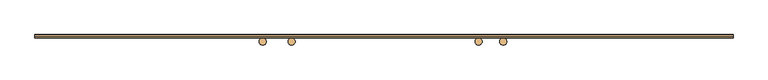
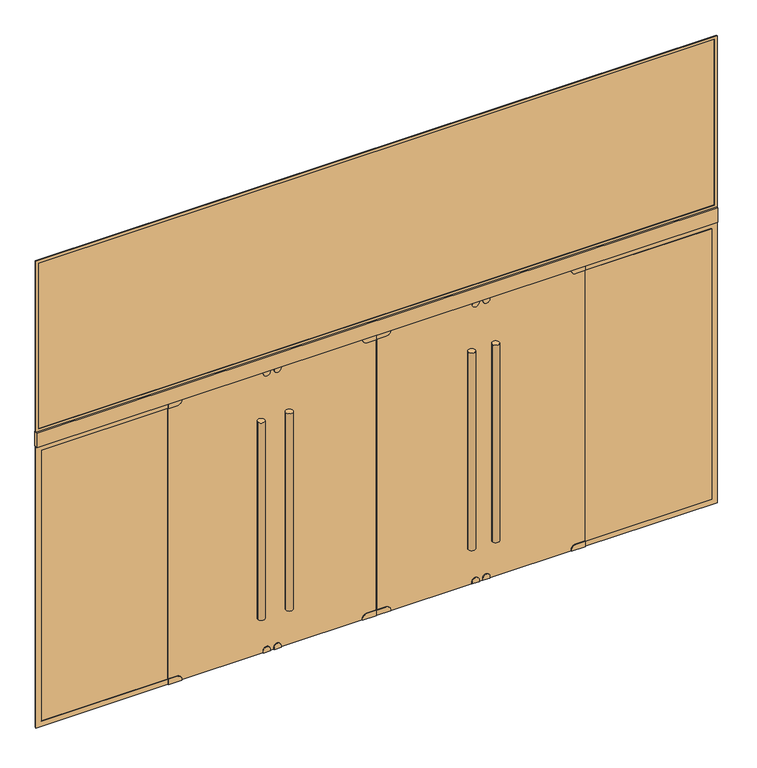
"""IFC4 building model written with IfcOpenShell, lengths in millimetres: door geometry, ARQ-MAM-EX-490x350-Vid : ARQ-MAM-EX-490x350-Vid."""

import ifcopenshell
import ifcopenshell.guid

model = None  # the IFC model being written
_history = None  # IfcOwnerHistory: only IFC2X3 demands one
_inside = {}  # id of a spatial element -> (the spatial element, [elements in it])
_under = {}  # id of a project, library or spatial element -> (it, [spatial elements below it])
_declared = {}  # id of a project -> (the project, [libraries it declares])
_typed = {}  # id of a type object -> (the type object, [elements of that type])
_made_of = {}  # id of a material, layer set ... -> (it, [elements and type objects made of it])


def new_model(schema):
    """Start an empty IFC model of exactly this schema.

    Asked for "IFC4X3", IfcOpenShell would pick the latest addendum, in which some entities
    have other attributes; the version numbers below select the first issue.
    IFC2X3 requires an IfcOwnerHistory on every rooted entity: one is made here for all.
    """
    global model, _history
    if schema == "IFC4X3":
        model = ifcopenshell.file(schema_version=(4, 3, 0, 0))
    else:
        model = ifcopenshell.file(schema=schema)
    _inside.clear()
    _under.clear()
    _declared.clear()
    _typed.clear()
    _made_of.clear()
    _history = None
    if model.schema == "IFC2X3":
        org = make("IfcOrganization", Name="unknown")
        user = make(
            "IfcPersonAndOrganization",
            ThePerson=make("IfcPerson", FamilyName="unknown"),
            TheOrganization=org,
        )
        app = make(
            "IfcApplication",
            ApplicationDeveloper=org,
            Version="unknown",
            ApplicationFullName="unknown",
            ApplicationIdentifier="unknown",
        )
        _history = make(
            "IfcOwnerHistory",
            OwningUser=user,
            OwningApplication=app,
            ChangeAction="ADDED",
            CreationDate=0,
        )
    return model


def make(cls, **values):
    """One entity of the class cls with the attributes given. An attribute that is None is left unset."""
    return model.create_entity(
        cls, **{name: value for name, value in values.items() if value is not None}
    )


def rooted(cls, **values):
    """An entity with a GlobalId (a new one), such as an element, a storey or a relation."""
    return make(cls, GlobalId=ifcopenshell.guid.new(), OwnerHistory=_history, **values)


def si_unit(unit_type, name, prefix=None):
    """IfcSIUnit, for example si_unit("LENGTHUNIT", "METRE", prefix="MILLI")."""
    return make("IfcSIUnit", UnitType=unit_type, Prefix=prefix, Name=name)


def assignment(units):
    """IfcUnitAssignment: the units of a project."""
    return None if units is None else make("IfcUnitAssignment", Units=units)


def point(xyz):
    """IfcCartesianPoint."""
    return None if xyz is None else make("IfcCartesianPoint", Coordinates=xyz)


def direction(xyz):
    """IfcDirection."""
    return None if xyz is None else make("IfcDirection", DirectionRatios=xyz)


def frame(location, z_axis=None, x_axis=None):
    """IfcAxis2Placement3D, a coordinate frame: its origin and axes. An axis left out is left unset."""
    return make(
        "IfcAxis2Placement3D",
        Location=point(location),
        Axis=direction(z_axis),
        RefDirection=direction(x_axis),
    )


def frame_2d(location, x_axis=None):
    """IfcAxis2Placement2D, a coordinate frame in the plane: its origin and x axis."""
    return make(
        "IfcAxis2Placement2D", Location=point(location), RefDirection=direction(x_axis)
    )


def origin():
    """The frame at (0, 0, 0) with its axes left unset."""
    return frame((0.0, 0.0, 0.0))


def origin_with_axes():
    """The frame at (0, 0, 0) with the z axis (0, 0, 1) and the x axis (1, 0, 0) written out."""
    return frame((0.0, 0.0, 0.0), z_axis=(0.0, 0.0, 1.0), x_axis=(1.0, 0.0, 0.0))


def place(relative_to, where):
    """IfcLocalPlacement: puts the frame where relative to a parent placement (None: the world)."""
    return make(
        "IfcLocalPlacement", PlacementRelTo=relative_to, RelativePlacement=where
    )


def context(
    kind, dimensions, precision=None, world=None, true_north=None, identifier=None
):
    """IfcGeometricRepresentationContext, for example the 3D "Model" context."""
    return make(
        "IfcGeometricRepresentationContext",
        ContextIdentifier=identifier,
        ContextType=kind,
        CoordinateSpaceDimension=dimensions,
        Precision=precision,
        WorldCoordinateSystem=world,
        TrueNorth=true_north,
    )


def project(units=None, contexts=None):
    """IfcProject with its units and contexts."""
    return rooted(
        "IfcProject",
        Name="project",
        RepresentationContexts=contexts,
        UnitsInContext=assignment(units),
    )


def spatial(cls, under=None, at=None, **own):
    """A site, building, storey or space (cls), placed at a placement, below another one or the project."""
    s = rooted(cls, ObjectPlacement=at, **own)
    if under is not None:
        _under.setdefault(under.id(), (under, []))[1].append(s)
    return s


def polyline(points):
    """IfcPolyline through the points."""
    return make("IfcPolyline", Points=[point(p) for p in points])


def circle_curve(where, radius):
    """IfcCircle in the frame where."""
    return make("IfcCircle", Position=where, Radius=radius)


def trimmed(basis, trim1, trim2, sense, master):
    """IfcTrimmedCurve: the piece of a basis curve between two trims."""
    return make(
        "IfcTrimmedCurve",
        BasisCurve=basis,
        Trim1=trim1,
        Trim2=trim2,
        SenseAgreement=sense,
        MasterRepresentation=master,
    )


def segment(curve, same_sense, transition):
    """IfcCompositeCurveSegment."""
    return make(
        "IfcCompositeCurveSegment",
        Transition=transition,
        SameSense=same_sense,
        ParentCurve=curve,
    )


def composite_curve(segments, self_intersect=None):
    """IfcCompositeCurve: segments joined end to end."""
    return make("IfcCompositeCurve", Segments=segments, SelfIntersect=self_intersect)


def outline(outer, holes=None, kind="AREA"):
    """IfcArbitraryClosedProfileDef: a profile drawn as a closed curve; with holes, ...WithVoids."""
    if holes is None:
        return make("IfcArbitraryClosedProfileDef", ProfileType=kind, OuterCurve=outer)
    return make(
        "IfcArbitraryProfileDefWithVoids",
        ProfileType=kind,
        OuterCurve=outer,
        InnerCurves=holes,
    )


def extrude(swept, where, along, depth):
    """IfcExtrudedAreaSolid: the profile swept, set in the frame where, extruded along a direction by depth."""
    return make(
        "IfcExtrudedAreaSolid",
        SweptArea=swept,
        Position=where,
        ExtrudedDirection=direction(along),
        Depth=depth,
    )


def shape(context_of_items, identifier, shape_type, items):
    """IfcShapeRepresentation: the items that make up one representation, for example the "Body"."""
    return make(
        "IfcShapeRepresentation",
        ContextOfItems=context_of_items,
        RepresentationIdentifier=identifier,
        RepresentationType=shape_type,
        Items=items,
    )


def source(mapping_origin, context_of_items, identifier, shape_type, items):
    """IfcRepresentationMap: a shape defined once, which mapped items show again and again."""
    return make(
        "IfcRepresentationMap",
        MappingOrigin=mapping_origin,
        MappedRepresentation=shape(context_of_items, identifier, shape_type, items),
    )


def transform(
    local_origin,
    x_axis=None,
    y_axis=None,
    z_axis=None,
    scale=None,
    scale2=None,
    scale3=None,
    uniform=True,
):
    """IfcCartesianTransformationOperator3D, or its non-uniform kind. x_axis, y_axis, z_axis: its Axis1, 2, 3."""
    if uniform:
        return make(
            "IfcCartesianTransformationOperator3D",
            Axis1=direction(x_axis),
            Axis2=direction(y_axis),
            LocalOrigin=point(local_origin),
            Scale=scale,
            Axis3=direction(z_axis),
        )
    return make(
        "IfcCartesianTransformationOperator3DnonUniform",
        Axis1=direction(x_axis),
        Axis2=direction(y_axis),
        LocalOrigin=point(local_origin),
        Scale=scale,
        Axis3=direction(z_axis),
        Scale2=scale2,
        Scale3=scale3,
    )


def mapped(mapping_source, mapping_target):
    """IfcMappedItem: shows the shape of a source again, moved by a transform."""
    return make(
        "IfcMappedItem", MappingSource=mapping_source, MappingTarget=mapping_target
    )


def made_of(thing, what):
    """Note that an element or type object is made of a material, layer set ...; save() writes the relation."""
    if what is not None:
        _made_of.setdefault(what.id(), (what, []))[1].append(thing)
    return thing


def element(
    cls,
    number,
    at=None,
    inside=None,
    cuts=None,
    type_object=None,
    material=None,
    context=None,
    identifier="Body",
    shape_type=None,
    held_by="IfcProductDefinitionShape",
    body=None,
    shapes=None,
    **own,
):
    """One element of the class cls, such as IfcWall. Its Tag is "e" and its number.

    at: its placement. inside: the storey or other place that contains it. cuts: it is an
    opening in that element (IfcRelVoidsElement). A single representation is given by context,
    identifier, shape_type and body (its items); several are given by shapes. held_by: the class
    of the entity that holds the representations. save() writes the other relations.
    """
    e = rooted(cls, Tag="e%d" % number, ObjectPlacement=at, **own)
    if body is not None:
        shapes = [shape(context, identifier, shape_type, body)]
    if shapes is not None:
        e.Representation = make(held_by, Representations=shapes)
    if inside is not None:
        _inside.setdefault(inside.id(), (inside, []))[1].append(e)
    if cuts is not None:
        rooted(
            "IfcRelVoidsElement", RelatingBuildingElement=cuts, RelatedOpeningElement=e
        )
    if type_object is not None:
        _typed.setdefault(type_object.id(), (type_object, []))[1].append(e)
    return made_of(e, material)


def aggregate(whole, parts):
    """IfcRelAggregates: a whole, such as a stair, and the parts it consists of."""
    return rooted("IfcRelAggregates", RelatingObject=whole, RelatedObjects=parts)


def save(model, path):
    """Write the relations noted so far, then the file.

    IfcRelAggregates (storeys below a building ...), IfcRelContainedInSpatialStructure (elements
    in a storey), IfcRelDefinesByType, IfcRelAssociatesMaterial and IfcRelDeclares: one each for
    every whole, place, type object, material and project.
    """
    for whole, parts in _under.values():
        aggregate(whole, parts)
    for where, things in _inside.values():
        rooted(
            "IfcRelContainedInSpatialStructure",
            RelatedElements=things,
            RelatingStructure=where,
        )
    for kind, things in _typed.values():
        rooted("IfcRelDefinesByType", RelatedObjects=things, RelatingType=kind)
    for what, things in _made_of.values():
        rooted("IfcRelAssociatesMaterial", RelatedObjects=things, RelatingMaterial=what)
    for by, libraries in _declared.values():
        rooted("IfcRelDeclares", RelatingContext=by, RelatedDefinitions=libraries)
    model.write(path)


def door_b717b98c(model_context):
    return source(origin(), model_context, "Body", "SweptSolid", [
        extrude(outline(composite_curve([segment(trimmed(circle_curve(frame_2d((-648.6527562, 291.4865015)), 25.0), [point((-673.6527562, 291.4865015))], [point((-623.6527562, 291.4865015))], False, "CARTESIAN"), True, "CONTINUOUS"), segment(trimmed(circle_curve(frame_2d((-648.6527562, 291.4865015)), 25.0), [point((-623.6527562, 291.4865015))], [point((-673.6527562, 291.4865015))], False, "CARTESIAN"), True, "CONTINUOUS")], self_intersect=False)), frame((0.0, 0.0, 300.0), z_axis=(0.0, 0.0, 1.0), x_axis=(1.0, 0.0, 0.0)), (0.0, 0.0, 1.0), 1500.0),
        extrude(outline(composite_curve([segment(trimmed(circle_curve(frame_2d((-851.3472438, 291.4865015)), 25.0), [point((-876.3472438, 291.4865015))], [point((-826.3472438, 291.4865015))], False, "CARTESIAN"), True, "CONTINUOUS"), segment(trimmed(circle_curve(frame_2d((-851.3472438, 291.4865015)), 25.0), [point((-826.3472438, 291.4865015))], [point((-876.3472438, 291.4865015))], False, "CARTESIAN"), True, "CONTINUOUS")], self_intersect=False)), frame((0.0, 0.0, 300.0), z_axis=(0.0, 0.0, 1.0), x_axis=(1.0, 0.0, 0.0)), (0.0, 0.0, 1.0), 1500.0),
        extrude(outline(composite_curve([segment(trimmed(circle_curve(frame_2d((836.1527562, 291.4865015)), 25.0), [point((811.1527562, 291.4865015))], [point((861.1527562, 291.4865015))], False, "CARTESIAN"), True, "CONTINUOUS"), segment(trimmed(circle_curve(frame_2d((836.1527562, 291.4865015)), 25.0), [point((861.1527562, 291.4865015))], [point((811.1527562, 291.4865015))], False, "CARTESIAN"), True, "CONTINUOUS")], self_intersect=False)), frame((0.0, 0.0, 300.0), z_axis=(0.0, 0.0, 1.0), x_axis=(1.0, 0.0, 0.0)), (0.0, 0.0, 1.0), 1500.0),
        extrude(outline(composite_curve([segment(trimmed(circle_curve(frame_2d((663.8472438, 291.4865015)), 25.0), [point((638.8472438, 291.4865015))], [point((688.8472438, 291.4865015))], False, "CARTESIAN"), True, "CONTINUOUS"), segment(trimmed(circle_curve(frame_2d((663.8472438, 291.4865015)), 25.0), [point((688.8472438, 291.4865015))], [point((638.8472438, 291.4865015))], False, "CARTESIAN"), True, "CONTINUOUS")], self_intersect=False)), frame((0.0, 0.0, 300.0), z_axis=(0.0, 0.0, 1.0), x_axis=(1.0, 0.0, 0.0)), (0.0, 0.0, 1.0), 1500.0),
        extrude(outline(polyline([(-2450.0, 317.7218237), (-2450.0, 340.0), (2450.0, 340.0), (2450.0, 317.7218237), (-2450.0, 317.7218237)])), frame((0.0, 0.0, 2140.0), z_axis=(0.0, 0.0, 1.0), x_axis=(1.0, 0.0, 0.0)), (0.0, 0.0, 1.0), 110.0),
        extrude(outline(composite_curve([segment(polyline([(40.0, 1500.0), (40.0, 1435.0)]), True, "CONTINUOUS"), segment(trimmed(circle_curve(frame_2d((5.0, 1435.0)), 35.0), [point((40.0, 1435.0))], [point((5.0, 1400.0))], False, "CARTESIAN"), True, "CONTINUOUS"), segment(polyline([(5.0, 1400.0), (0.0, 1400.0), (0.0, 1500.0), (40.0, 1500.0)]), True, "CONTINUOUS")], self_intersect=False)), frame((0.0, 326.0, 0.0), z_axis=(0.0, 1.0, 0.0), x_axis=(0.0, 0.0, 1.0)), (0.0, 0.0, 1.0), 14.0),
        extrude(outline(composite_curve([segment(polyline([(40.0, -1500.0), (0.0, -1500.0), (0.0, -1400.0), (5.0, -1400.0)]), True, "CONTINUOUS"), segment(trimmed(circle_curve(frame_2d((5.0, -1435.0)), 35.0), [point((5.0, -1400.0))], [point((40.0, -1435.0))], False, "CARTESIAN"), True, "CONTINUOUS"), segment(polyline([(40.0, -1435.0), (40.0, -1500.0)]), True, "CONTINUOUS")], self_intersect=False)), frame((0.0, 326.0, 0.0), z_axis=(0.0, 1.0, 0.0), x_axis=(0.0, 0.0, 1.0)), (0.0, 0.0, 1.0), 14.0),
        extrude(outline(composite_curve([segment(polyline([(40.0, 2.5), (0.0, 2.5), (0.0, 102.5), (5.0, 102.5)]), True, "CONTINUOUS"), segment(trimmed(circle_curve(frame_2d((5.0, 67.5)), 35.0), [point((5.0, 102.5))], [point((40.0, 67.5))], False, "CARTESIAN"), True, "CONTINUOUS"), segment(polyline([(40.0, 67.5), (40.0, 2.5)]), True, "CONTINUOUS")], self_intersect=False)), frame((0.0, 326.0, 0.0), z_axis=(0.0, 1.0, 0.0), x_axis=(0.0, 0.0, 1.0)), (0.0, 0.0, 1.0), 14.0),
        extrude(outline(composite_curve([segment(polyline([(40.0, -2.5), (40.0, -67.5)]), True, "CONTINUOUS"), segment(trimmed(circle_curve(frame_2d((5.0, -67.5)), 35.0), [point((40.0, -67.5))], [point((5.0, -102.5))], False, "CARTESIAN"), True, "CONTINUOUS"), segment(polyline([(5.0, -102.5), (0.0, -102.5), (0.0, -2.5), (40.0, -2.5)]), True, "CONTINUOUS")], self_intersect=False)), frame((0.0, 326.0, 0.0), z_axis=(0.0, 1.0, 0.0), x_axis=(0.0, 0.0, 1.0)), (0.0, 0.0, 1.0), 14.0),
        extrude(outline(composite_curve([segment(polyline([(15.0, 765.0190318), (0.0, 765.0190318), (0.0, 815.0190318), (15.0, 815.0190318)]), True, "CONTINUOUS"), segment(trimmed(circle_curve(frame_2d((15.0, 790.0190318)), 25.0), [point((15.0, 815.0190318))], [point((15.0, 765.0190318))], False, "CARTESIAN"), True, "CONTINUOUS")], self_intersect=False)), frame((0.0, 326.0, 0.0), z_axis=(0.0, 1.0, 0.0), x_axis=(0.0, 0.0, 1.0)), (0.0, 0.0, 1.0), 14.0),
        extrude(outline(composite_curve([segment(trimmed(circle_curve(frame_2d((15.0, 712.4809682)), 25.0), [point((15.0, 737.4809682))], [point((15.0, 687.4809682))], False, "CARTESIAN"), True, "CONTINUOUS"), segment(polyline([(15.0, 687.4809682), (0.0, 687.4809682), (0.0, 737.4809682), (15.0, 737.4809682)]), True, "CONTINUOUS")], self_intersect=False)), frame((0.0, 326.0, 0.0), z_axis=(0.0, 1.0, 0.0), x_axis=(0.0, 0.0, 1.0)), (0.0, 0.0, 1.0), 14.0),
        extrude(outline(composite_curve([segment(polyline([(15.0, -737.4809682), (0.0, -737.4809682), (0.0, -687.4809682), (15.0, -687.4809682)]), True, "CONTINUOUS"), segment(trimmed(circle_curve(frame_2d((15.0, -712.4809682)), 25.0), [point((15.0, -687.4809682))], [point((15.0, -737.4809682))], False, "CARTESIAN"), True, "CONTINUOUS")], self_intersect=False)), frame((0.0, 326.0, 0.0), z_axis=(0.0, 1.0, 0.0), x_axis=(0.0, 0.0, 1.0)), (0.0, 0.0, 1.0), 14.0),
        extrude(outline(composite_curve([segment(trimmed(circle_curve(frame_2d((15.0, -790.0190318)), 25.0), [point((15.0, -765.0190318))], [point((15.0, -815.0190318))], False, "CARTESIAN"), True, "CONTINUOUS"), segment(polyline([(15.0, -815.0190318), (0.0, -815.0190318), (0.0, -765.0190318), (15.0, -765.0190318)]), True, "CONTINUOUS")], self_intersect=False)), frame((0.0, 326.0, 0.0), z_axis=(0.0, 1.0, 0.0), x_axis=(0.0, 0.0, 1.0)), (0.0, 0.0, 1.0), 14.0),
        extrude(outline(composite_curve([segment(polyline([(2100.0, 1500.0), (2140.0, 1500.0), (2140.0, 1400.0), (2135.0, 1400.0)]), True, "CONTINUOUS"), segment(trimmed(circle_curve(frame_2d((2135.0, 1435.0)), 35.0), [point((2135.0, 1400.0))], [point((2100.0, 1435.0))], False, "CARTESIAN"), True, "CONTINUOUS"), segment(polyline([(2100.0, 1435.0), (2100.0, 1500.0)]), True, "CONTINUOUS")], self_intersect=False)), frame((0.0, 326.0, 0.0), z_axis=(0.0, 1.0, 0.0), x_axis=(0.0, 0.0, 1.0)), (0.0, 0.0, 1.0), 14.0),
        extrude(outline(composite_curve([segment(polyline([(2100.0, -1500.0), (2100.0, -1435.0)]), True, "CONTINUOUS"), segment(trimmed(circle_curve(frame_2d((2135.0, -1435.0)), 35.0), [point((2100.0, -1435.0))], [point((2135.0, -1400.0))], False, "CARTESIAN"), True, "CONTINUOUS"), segment(polyline([(2135.0, -1400.0), (2140.0, -1400.0), (2140.0, -1500.0), (2100.0, -1500.0)]), True, "CONTINUOUS")], self_intersect=False)), frame((0.0, 326.0, 0.0), z_axis=(0.0, 1.0, 0.0), x_axis=(0.0, 0.0, 1.0)), (0.0, 0.0, 1.0), 14.0),
        extrude(outline(composite_curve([segment(polyline([(2100.0, 2.5), (2100.0, 67.5)]), True, "CONTINUOUS"), segment(trimmed(circle_curve(frame_2d((2135.0, 67.5)), 35.0), [point((2100.0, 67.5))], [point((2135.0, 102.5))], False, "CARTESIAN"), True, "CONTINUOUS"), segment(polyline([(2135.0, 102.5), (2140.0, 102.5), (2140.0, 2.5), (2100.0, 2.5)]), True, "CONTINUOUS")], self_intersect=False)), frame((0.0, 326.0, 0.0), z_axis=(0.0, 1.0, 0.0), x_axis=(0.0, 0.0, 1.0)), (0.0, 0.0, 1.0), 14.0),
        extrude(outline(composite_curve([segment(polyline([(2100.0, -2.5), (2140.0, -2.5), (2140.0, -102.5), (2135.0, -102.5)]), True, "CONTINUOUS"), segment(trimmed(circle_curve(frame_2d((2135.0, -67.5)), 35.0), [point((2135.0, -102.5))], [point((2100.0, -67.5))], False, "CARTESIAN"), True, "CONTINUOUS"), segment(polyline([(2100.0, -67.5), (2100.0, -2.5)]), True, "CONTINUOUS")], self_intersect=False)), frame((0.0, 326.0, 0.0), z_axis=(0.0, 1.0, 0.0), x_axis=(0.0, 0.0, 1.0)), (0.0, 0.0, 1.0), 14.0),
        extrude(outline(composite_curve([segment(trimmed(circle_curve(frame_2d((2125.0, 790.0190318)), 25.0), [point((2125.0, 765.0190318))], [point((2125.0, 815.0190318))], False, "CARTESIAN"), True, "CONTINUOUS"), segment(polyline([(2125.0, 815.0190318), (2140.0, 815.0190318), (2140.0, 765.0190318), (2125.0, 765.0190318)]), True, "CONTINUOUS")], self_intersect=False)), frame((0.0, 326.0, 0.0), z_axis=(0.0, 1.0, 0.0), x_axis=(0.0, 0.0, 1.0)), (0.0, 0.0, 1.0), 14.0),
        extrude(outline(composite_curve([segment(polyline([(2125.0, 737.4809682), (2140.0, 737.4809682), (2140.0, 687.4809682), (2125.0, 687.4809682)]), True, "CONTINUOUS"), segment(trimmed(circle_curve(frame_2d((2125.0, 712.4809682)), 25.0), [point((2125.0, 687.4809682))], [point((2125.0, 737.4809682))], False, "CARTESIAN"), True, "CONTINUOUS")], self_intersect=False)), frame((0.0, 326.0, 0.0), z_axis=(0.0, 1.0, 0.0), x_axis=(0.0, 0.0, 1.0)), (0.0, 0.0, 1.0), 14.0),
        extrude(outline(composite_curve([segment(trimmed(circle_curve(frame_2d((2125.0, -712.4809682)), 25.0), [point((2125.0, -737.4809682))], [point((2125.0, -687.4809682))], False, "CARTESIAN"), True, "CONTINUOUS"), segment(polyline([(2125.0, -687.4809682), (2140.0, -687.4809682), (2140.0, -737.4809682), (2125.0, -737.4809682)]), True, "CONTINUOUS")], self_intersect=False)), frame((0.0, 326.0, 0.0), z_axis=(0.0, 1.0, 0.0), x_axis=(0.0, 0.0, 1.0)), (0.0, 0.0, 1.0), 14.0),
        extrude(outline(composite_curve([segment(polyline([(2125.0, -765.0190318), (2140.0, -765.0190318), (2140.0, -815.0190318), (2125.0, -815.0190318)]), True, "CONTINUOUS"), segment(trimmed(circle_curve(frame_2d((2125.0, -790.0190318)), 25.0), [point((2125.0, -815.0190318))], [point((2125.0, -765.0190318))], False, "CARTESIAN"), True, "CONTINUOUS")], self_intersect=False)), frame((0.0, 326.0, 0.0), z_axis=(0.0, 1.0, 0.0), x_axis=(0.0, 0.0, 1.0)), (0.0, 0.0, 1.0), 14.0),
        extrude(outline(polyline([(-2.5, 335.0), (-2.5, 331.0), (-1500.0, 331.0), (-1500.0, 335.0), (-2.5, 335.0)])), origin_with_axes(), (0.0, 0.0, 1.0), 2140.0),
        extrude(outline(polyline([(1500.0, 335.0), (1500.0, 331.0), (2.5, 331.0), (2.5, 335.0), (1500.0, 335.0)])), origin_with_axes(), (0.0, 0.0, 1.0), 2140.0),
        extrude(outline(polyline([(-1502.5, 335.0), (-1502.5, 331.0), (-2410.0, 331.0), (-2410.0, 335.0), (-1502.5, 335.0)])), frame((0.0, 0.0, 40.0), z_axis=(0.0, 0.0, 1.0), x_axis=(1.0, 0.0, 0.0)), (0.0, 0.0, 1.0), 2060.0),
        extrude(outline(polyline([(2410.0, 340.0), (2410.0, 326.0), (1502.5, 326.0), (1502.5, 340.0), (2410.0, 340.0)])), frame((0.0, 0.0, 40.0), z_axis=(0.0, 0.0, 1.0), x_axis=(1.0, 0.0, 0.0)), (0.0, 0.0, 1.0), 2060.0),
        extrude(outline(polyline([(2430.0, 335.0), (2430.0, 331.0), (-2430.0, 331.0), (-2430.0, 335.0), (2430.0, 335.0)])), frame((0.0, 0.0, 2270.0), z_axis=(0.0, 0.0, 1.0), x_axis=(1.0, 0.0, 0.0)), (0.0, 0.0, 1.0), 1260.0),
        extrude(outline(polyline([(2140.0, 2450.0), (2140.0, 1500.0), (2100.0, 1500.0), (2100.0, 2410.0), (40.0, 2410.0), (40.0, 1500.0), (0.0, 1500.0), (0.0, 2450.0), (2140.0, 2450.0)])), frame((0.0, 328.0, 0.0), z_axis=(0.0, 1.0, 0.0), x_axis=(0.0, 0.0, 1.0)), (0.0, 0.0, 1.0), 10.0),
        extrude(outline(polyline([(3550.0, -2450.0), (2250.0, -2450.0), (2250.0, 2450.0), (3550.0, 2450.0), (3550.0, -2450.0)]), holes=[polyline([(3530.0, -2430.0), (3530.0, 2430.0), (2270.0, 2430.0), (2270.0, -2430.0), (3530.0, -2430.0)])]), frame((0.0, 328.0, 0.0), z_axis=(0.0, 1.0, 0.0), x_axis=(0.0, 0.0, 1.0)), (0.0, 0.0, 1.0), 10.0),
        extrude(outline(polyline([(2140.0, -2450.0), (0.0, -2450.0), (0.0, -1500.0), (40.0, -1500.0), (40.0, -2410.0), (2100.0, -2410.0), (2100.0, -1500.0), (2140.0, -1500.0), (2140.0, -2450.0)])), frame((0.0, 328.0, 0.0), z_axis=(0.0, 1.0, 0.0), x_axis=(0.0, 0.0, 1.0)), (0.0, 0.0, 1.0), 10.0),
    ])


if __name__ == "__main__":
    model = new_model("IFC4")
    model_context = context("Model", 3, world=origin())
    ifc_project = project(units=[si_unit("LENGTHUNIT", "METRE", prefix="MILLI")], contexts=[model_context])
    site = spatial("IfcSite", under=ifc_project)
    building = spatial("IfcBuilding", under=site)
    placement = place(None, origin())
    door_shape = door_b717b98c(model_context)
    element("IfcDoor", 1, ObjectType="ARQ-MAM-EX-490x350-Vid : ARQ-MAM-EX-490x350-Vid", at=placement, inside=building, context=model_context, shape_type="MappedRepresentation", body=[
        mapped(door_shape, transform((0.0, 0.0, 0.0), x_axis=(1.0, 0.0, 0.0), y_axis=(0.0, 1.0, 0.0), z_axis=(0.0, 0.0, 1.0))),
    ])
    save(model, "model.ifc")
